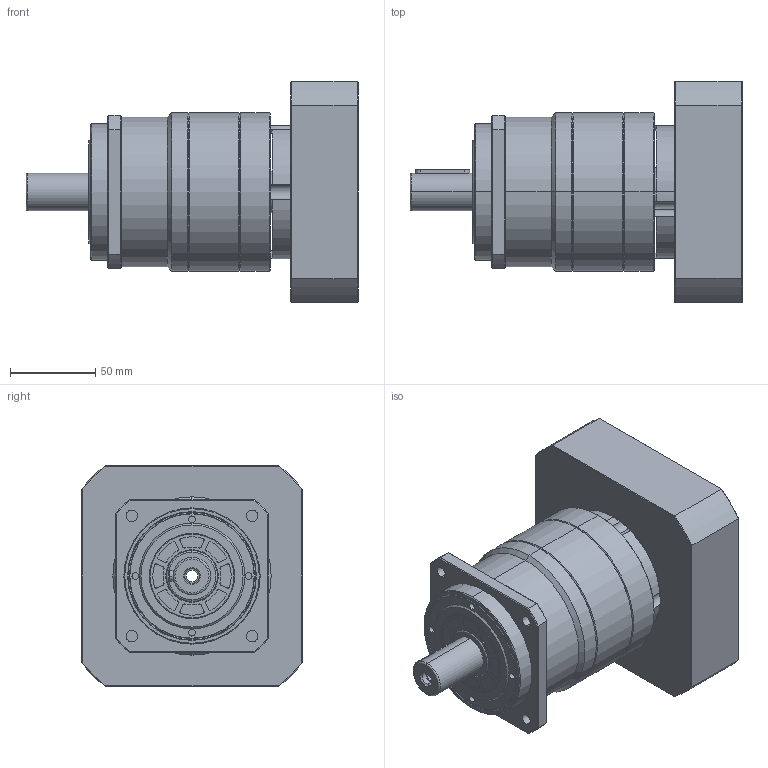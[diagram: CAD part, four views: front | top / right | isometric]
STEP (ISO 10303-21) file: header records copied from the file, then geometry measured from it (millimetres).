
FILE_DESCRIPTION (( 'STEP AP203' ), '1' );
FILE_NAME ('KS90-10X5-110-24-60-M8-145.STEP', '2020-08-12T02:21:04', ( '微软用户' ), ( '微软中国' ), 'SwSTEP 2.0', 'SolidWorks 2008', '' );
FILE_SCHEMA (( 'CONFIG_CONTROL_DESIGN' ));
Length unit declared in the file: millimetre
Products named in the file (1): KS90-10X5-110-24-60-M8-145
Bounding box: 195 x 130 x 130 mm (x, y, z)
Surface area: 131589.6 mm2 (no closed solid volume)
Topology: 0 solids, 21 shells, 350 faces, 1148 edges, 801 vertices
Faces by surface type: cylinder 134, plane 131, cone 63, torus 22
Entity records: 13179 total; most frequent: CARTESIAN_POINT 2868, DIRECTION 2309, ORIENTED_EDGE 1817, EDGE_CURVE 1148, AXIS2_PLACEMENT_3D 906, VERTEX_POINT 801, CIRCLE 555, VECTOR 497
